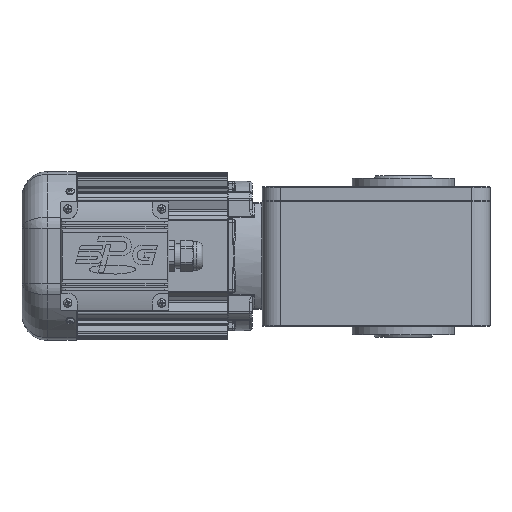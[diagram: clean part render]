
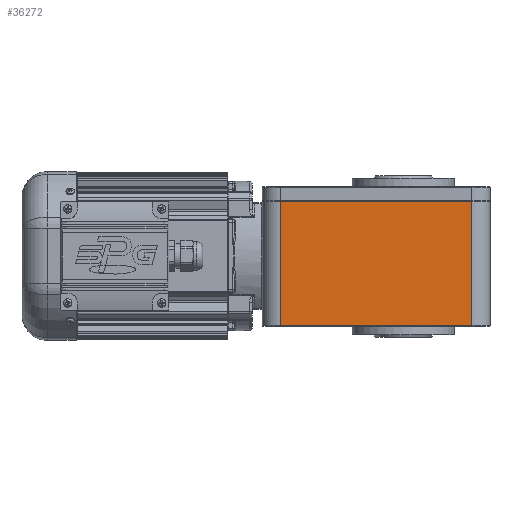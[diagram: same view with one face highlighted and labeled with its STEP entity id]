
A CAD part, front view. The second image highlights one B-rep face of the part: STEP entity #36272.
In plain terms, the highlighted planar face has unit normal (0, -1, 0).
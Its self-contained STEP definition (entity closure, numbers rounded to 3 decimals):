
#2610=LINE('',#63976,#5066);
#2614=LINE('',#63988,#5070);
#2615=LINE('',#63990,#5071);
#2616=LINE('',#63991,#5072);
#5066=VECTOR('',#49190,103.);
#5070=VECTOR('',#49204,159.);
#5071=VECTOR('',#49205,159.);
#5072=VECTOR('',#49206,103.);
#8228=FACE_OUTER_BOUND('',#10344,.T.);
#10344=EDGE_LOOP('',(#29460,#29461,#29462,#29463));
#15731=VERTEX_POINT('',#63970);
#15733=VERTEX_POINT('',#63974);
#15736=VERTEX_POINT('',#63987);
#15737=VERTEX_POINT('',#63989);
#20459=EDGE_CURVE('',#15733,#15731,#2610,.T.);
#20465=EDGE_CURVE('',#15731,#15736,#2614,.T.);
#20466=EDGE_CURVE('',#15737,#15733,#2615,.T.);
#20467=EDGE_CURVE('',#15737,#15736,#2616,.T.);
#29460=ORIENTED_EDGE('',*,*,#20465,.F.);
#29461=ORIENTED_EDGE('',*,*,#20459,.F.);
#29462=ORIENTED_EDGE('',*,*,#20466,.F.);
#29463=ORIENTED_EDGE('',*,*,#20467,.T.);
#32551=PLANE('',#40000);
#36272=ADVANCED_FACE('',(#8228),#32551,.T.);
#40000=AXIS2_PLACEMENT_3D('',#63986,#49202,#49203);
#49190=DIRECTION('',(0.,0.,-1.));
#49202=DIRECTION('center_axis',(0.,-1.,0.));
#49203=DIRECTION('ref_axis',(0.,0.,-1.));
#49204=DIRECTION('',(-1.,0.,0.));
#49205=DIRECTION('',(1.,0.,0.));
#49206=DIRECTION('',(0.,0.,-1.));
#63970=CARTESIAN_POINT('',(121.405,-91.334,-57.));
#63974=CARTESIAN_POINT('',(121.405,-91.334,46.));
#63976=CARTESIAN_POINT('',(121.405,-91.334,46.));
#63986=CARTESIAN_POINT('Origin',(121.405,-91.334,0.5));
#63987=CARTESIAN_POINT('',(-37.595,-91.334,-57.));
#63988=CARTESIAN_POINT('',(121.405,-91.334,-57.));
#63989=CARTESIAN_POINT('',(-37.595,-91.334,46.));
#63990=CARTESIAN_POINT('',(-37.595,-91.334,46.));
#63991=CARTESIAN_POINT('',(-37.595,-91.334,46.));
